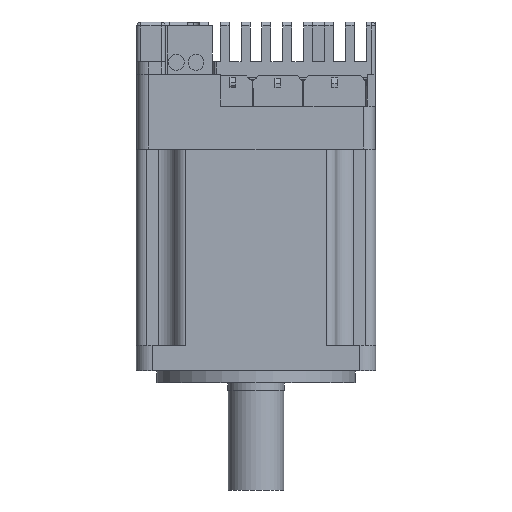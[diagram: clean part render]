
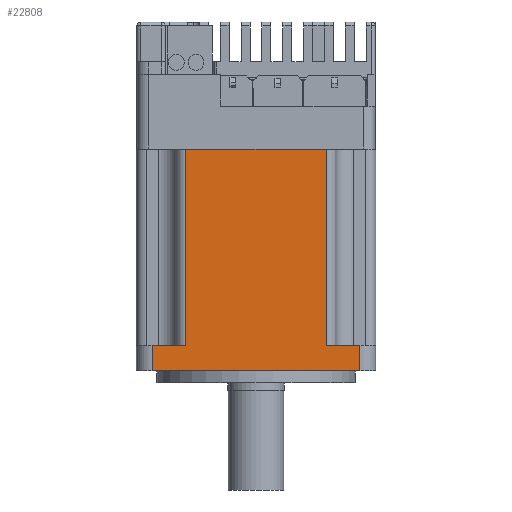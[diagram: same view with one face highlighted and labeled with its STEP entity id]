
A CAD part, front view. The second image highlights one B-rep face of the part: STEP entity #22808.
In plain terms, the highlighted planar face has unit normal (0, -1, 0).
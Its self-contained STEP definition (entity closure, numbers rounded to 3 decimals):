
#248 = CARTESIAN_POINT ( 'NONE',  ( 26.15, -30.15, 6.5 ) ) ;
#4719 = VECTOR ( 'NONE', #86456, 1000. ) ;
#6110 = AXIS2_PLACEMENT_3D ( 'NONE', #144528, #34943, #58130 ) ;
#7418 = LINE ( 'NONE', #33020, #108424 ) ;
#12854 = CARTESIAN_POINT ( 'NONE',  ( 17.65, -30.15, 6.5 ) ) ;
#13523 = ORIENTED_EDGE ( 'NONE', *, *, #74977, .F. ) ;
#14807 = DIRECTION ( 'NONE',  ( 1., 0., 0. ) ) ;
#17086 = CARTESIAN_POINT ( 'NONE',  ( -26.15, -30.15, 6.5 ) ) ;
#17744 = VECTOR ( 'NONE', #125597, 1000. ) ;
#22491 = LINE ( 'NONE', #156788, #145331 ) ;
#22808 = ADVANCED_FACE ( 'NONE', ( #34128 ), #97262, .F. ) ;
#23750 = ORIENTED_EDGE ( 'NONE', *, *, #41220, .F. ) ;
#25214 = LINE ( 'NONE', #74091, #27253 ) ;
#26587 = VERTEX_POINT ( 'NONE', #12854 ) ;
#27253 = VECTOR ( 'NONE', #14807, 1000. ) ;
#28690 = CARTESIAN_POINT ( 'NONE',  ( 26.15, -30.15, 6.5 ) ) ;
#28959 = EDGE_CURVE ( 'NONE', #77514, #129062, #82339, .T. ) ;
#29234 = DIRECTION ( 'NONE',  ( 1., 0., 0. ) ) ;
#32807 = DIRECTION ( 'NONE',  ( 0., 0., -1. ) ) ;
#33020 = CARTESIAN_POINT ( 'NONE',  ( -26.15, -30.15, 6.5 ) ) ;
#34128 = FACE_OUTER_BOUND ( 'NONE', #80752, .T. ) ;
#34885 = VERTEX_POINT ( 'NONE', #37556 ) ;
#34943 = DIRECTION ( 'NONE',  ( 0., 1., 0. ) ) ;
#37556 = CARTESIAN_POINT ( 'NONE',  ( 17.65, -30.15, 55.9 ) ) ;
#39056 = CARTESIAN_POINT ( 'NONE',  ( 26.15, -30.15, 0. ) ) ;
#39198 = CARTESIAN_POINT ( 'NONE',  ( -17.65, -30.15, 6.5 ) ) ;
#41220 = EDGE_CURVE ( 'NONE', #130325, #129062, #22491, .T. ) ;
#49321 = ORIENTED_EDGE ( 'NONE', *, *, #28959, .T. ) ;
#50450 = LINE ( 'NONE', #99231, #4719 ) ;
#52697 = LINE ( 'NONE', #28690, #91151 ) ;
#58130 = DIRECTION ( 'NONE',  ( 0., 0., 1. ) ) ;
#60034 = VERTEX_POINT ( 'NONE', #39056 ) ;
#63999 = LINE ( 'NONE', #39198, #17744 ) ;
#65143 = ORIENTED_EDGE ( 'NONE', *, *, #131579, .F. ) ;
#67449 = VERTEX_POINT ( 'NONE', #77760 ) ;
#70790 = VECTOR ( 'NONE', #32807, 1000. ) ;
#74091 = CARTESIAN_POINT ( 'NONE',  ( -17.65, -30.15, 55.9 ) ) ;
#74977 = EDGE_CURVE ( 'NONE', #34885, #26587, #50450, .T. ) ;
#76016 = EDGE_CURVE ( 'NONE', #67449, #60034, #91638, .T. ) ;
#77414 = ORIENTED_EDGE ( 'NONE', *, *, #112432, .F. ) ;
#77514 = VERTEX_POINT ( 'NONE', #139095 ) ;
#77760 = CARTESIAN_POINT ( 'NONE',  ( -26.15, -30.15, 0. ) ) ;
#80752 = EDGE_LOOP ( 'NONE', ( #152890, #77414, #95577, #13523, #65143, #49321, #23750, #155078 ) ) ;
#82339 = LINE ( 'NONE', #142432, #70790 ) ;
#86456 = DIRECTION ( 'NONE',  ( 0., 0., -1. ) ) ;
#90898 = EDGE_CURVE ( 'NONE', #130325, #67449, #7418, .T. ) ;
#91151 = VECTOR ( 'NONE', #136742, 1000. ) ;
#91638 = LINE ( 'NONE', #127680, #152815 ) ;
#95577 = ORIENTED_EDGE ( 'NONE', *, *, #114494, .F. ) ;
#97262 = PLANE ( 'NONE',  #6110 ) ;
#99231 = CARTESIAN_POINT ( 'NONE',  ( 17.65, -30.15, 55.9 ) ) ;
#105793 = DIRECTION ( 'NONE',  ( 1., 0., 0. ) ) ;
#108424 = VECTOR ( 'NONE', #130670, 1000. ) ;
#112432 = EDGE_CURVE ( 'NONE', #153297, #60034, #52697, .T. ) ;
#114494 = EDGE_CURVE ( 'NONE', #26587, #153297, #63999, .T. ) ;
#125597 = DIRECTION ( 'NONE',  ( 1., 0., 0. ) ) ;
#127680 = CARTESIAN_POINT ( 'NONE',  ( 26.15, -30.15, 0. ) ) ;
#128098 = CARTESIAN_POINT ( 'NONE',  ( -17.65, -30.15, 6.5 ) ) ;
#129062 = VERTEX_POINT ( 'NONE', #128098 ) ;
#130325 = VERTEX_POINT ( 'NONE', #17086 ) ;
#130670 = DIRECTION ( 'NONE',  ( 0., 0., -1. ) ) ;
#131579 = EDGE_CURVE ( 'NONE', #77514, #34885, #25214, .T. ) ;
#136742 = DIRECTION ( 'NONE',  ( 0., 0., -1. ) ) ;
#139095 = CARTESIAN_POINT ( 'NONE',  ( -17.65, -30.15, 55.9 ) ) ;
#142432 = CARTESIAN_POINT ( 'NONE',  ( -17.65, -30.15, 55.9 ) ) ;
#144528 = CARTESIAN_POINT ( 'NONE',  ( 26.15, -30.15, 6.5 ) ) ;
#145331 = VECTOR ( 'NONE', #105793, 1000. ) ;
#152815 = VECTOR ( 'NONE', #29234, 1000. ) ;
#152890 = ORIENTED_EDGE ( 'NONE', *, *, #76016, .T. ) ;
#153297 = VERTEX_POINT ( 'NONE', #248 ) ;
#155078 = ORIENTED_EDGE ( 'NONE', *, *, #90898, .T. ) ;
#156788 = CARTESIAN_POINT ( 'NONE',  ( -17.65, -30.15, 6.5 ) ) ;
